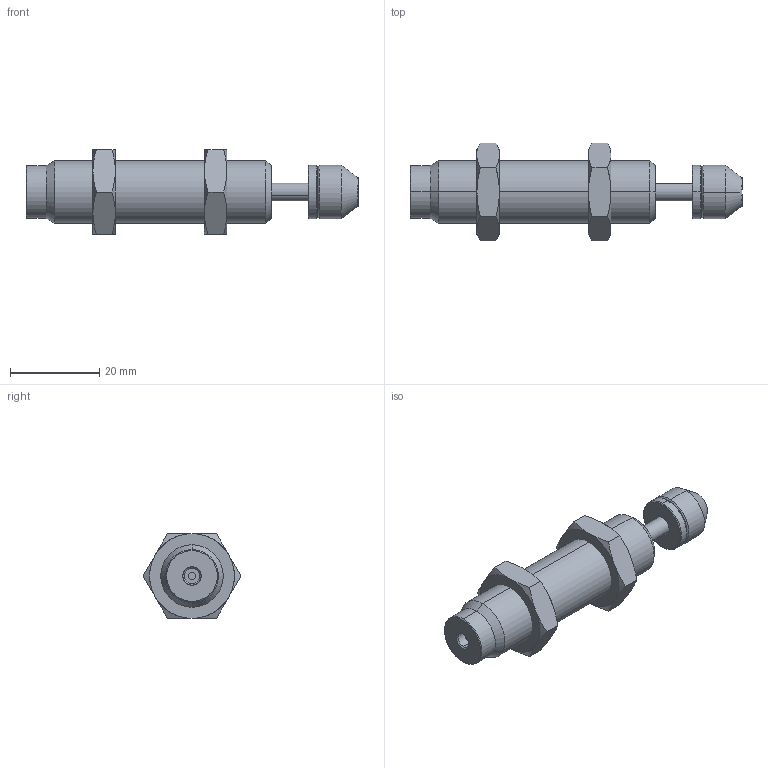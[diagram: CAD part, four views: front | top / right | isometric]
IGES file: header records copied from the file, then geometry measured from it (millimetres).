
Start section: SolidWorks IGES file using analytic representation for surfaces
Global section: file name: D:\IGS跡宒\AC1408.IGS,1; native system: 5HSolidWorks 2013; preprocessor: SolidWorks 2013; author: Administrator; date: 160406.151648; units: inch
Bounding box: 74.4 x 21.94 x 19 mm (x, y, z)
Surface area: 5197.3 mm2 (no closed solid volume)
Topology: 0 solids, 0 shells, 88 faces, 1368 edges, 1368 vertices
Faces by surface type: revolution 64, bspline 24
